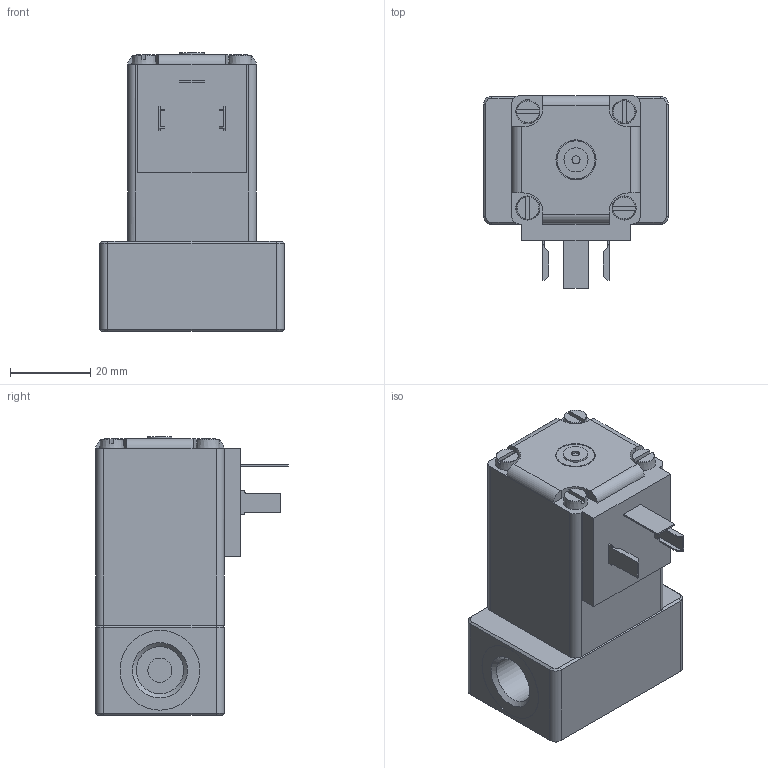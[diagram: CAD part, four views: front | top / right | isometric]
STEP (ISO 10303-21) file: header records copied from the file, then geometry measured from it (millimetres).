
FILE_DESCRIPTION((''),'2;1');
FILE_NAME('F:\AirCom-Produktdokumentation\Volumenstromregelung\PV\CAD\CAD AirCom\3D\B-PV22-20.stp','2010-01-07T11:14:29',('Frank Schroers'),(''),'Autodesk Inventor 2008','Autodesk Inventor 2008','');
FILE_SCHEMA(('AUTOMOTIVE_DESIGN { 1 0 10303 214 1 1 1 1 }'));
Length unit declared in the file: millimetre
Products named in the file (3): B-PV22-20; ISO 1207 M3,5 x 5
Assembly tree (5 placements, depth 2):
  B-PV22-20
    B-PV22-20
    ISO 1207 M3,5 x 5  x4
Bounding box: 46 x 48 x 69.5 mm (x, y, z)
Volume: 77997.8 mm3; surface area: 16068 mm2
Topology: 5 solids, 5 shells, 216 faces, 485 edges, 306 vertices
Faces by surface type: plane 131, cylinder 47, cone 30, torus 8
Full cylindrical faces by diameter (mm): 2 x1, 3.132 x4, 3.3 x4, 3.5 x4, 3.8 x4, 6 x2, 9.5 x1, 10 x1, 11.75 x2, 12 x2, 19.9 x2
Entity records: 4831 total; most frequent: DIRECTION 828, CARTESIAN_POINT 822, ORIENTED_EDGE 720, EDGE_CURVE 360, AXIS2_PLACEMENT_3D 294, VERTEX_POINT 248, VECTOR 240, LINE 240
